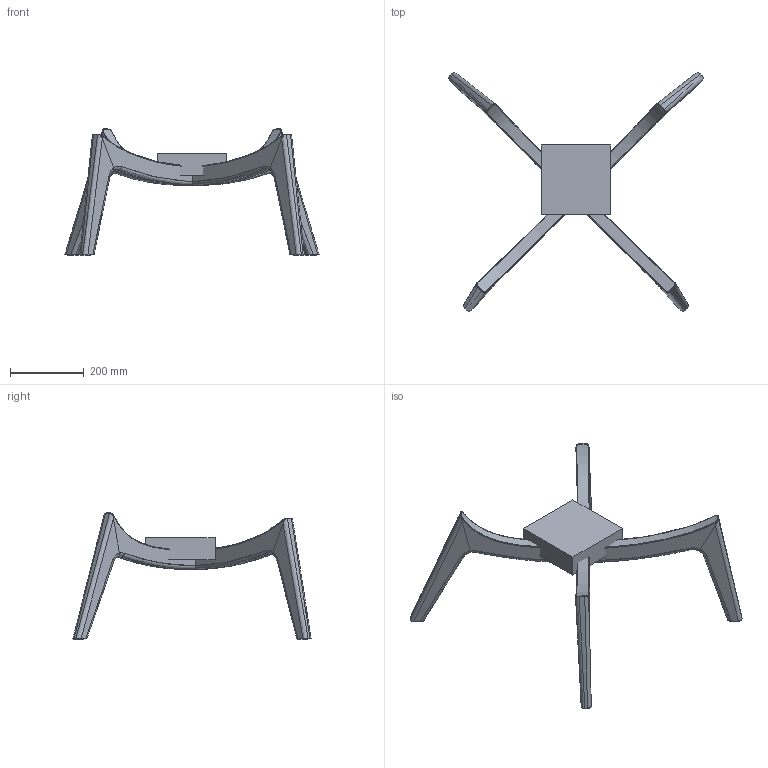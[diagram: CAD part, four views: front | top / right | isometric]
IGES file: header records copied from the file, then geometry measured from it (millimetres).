
Global section: file name: M:\BASI e PIEDI\Render + info basi + MODIFICHE\L14\L14 PER RENDERING.igs; native system: Rhinoceros ( Aug 10 2015 ); preprocessor: Trout Lake IGES 012 Aug 10 2015; date: 151127.071638; units: millimetre
Bounding box: 690.26 x 647.02 x 343.42 mm (x, y, z)
Surface area: 559750.8 mm2 (no closed solid volume)
Topology: 0 solids, 0 shells, 166 faces, 1200 edges, 1200 vertices
Faces by surface type: bspline 166
